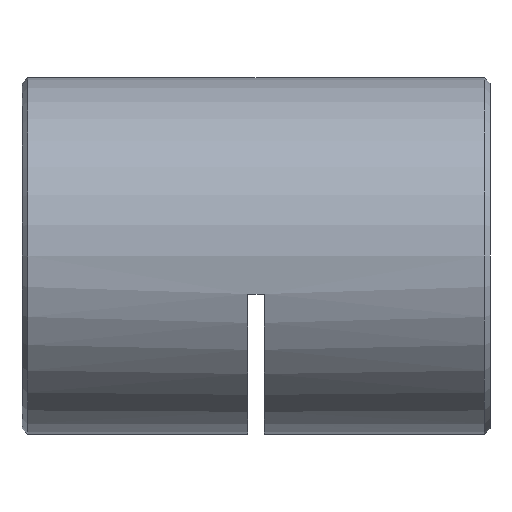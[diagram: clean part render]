
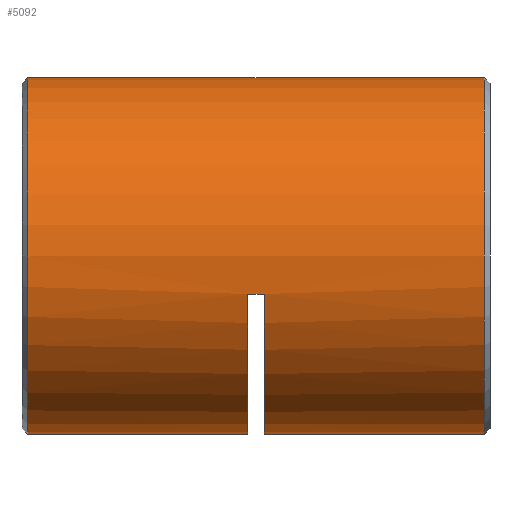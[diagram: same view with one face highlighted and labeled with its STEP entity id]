
A CAD part, left-side view. The second image highlights one B-rep face of the part: STEP entity #5092.
In plain terms, the highlighted cylindrical face has radius 16 mm (diameter 32 mm), a partial arc.
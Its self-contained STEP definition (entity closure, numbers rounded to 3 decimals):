
#181 = AXIS2_PLACEMENT_3D ( 'NONE', #1147, #6137, #2101 ) ;
#381 = DIRECTION ( 'NONE',  ( 0., -1., 0. ) ) ;
#483 = AXIS2_PLACEMENT_3D ( 'NONE', #925, #4430, #4454 ) ;
#545 = CARTESIAN_POINT ( 'NONE',  ( 0., 20.5, 0. ) ) ;
#649 = CARTESIAN_POINT ( 'NONE',  ( 0., 22., -16. ) ) ;
#656 = DIRECTION ( 'NONE',  ( 0., -1., 0. ) ) ;
#667 = CARTESIAN_POINT ( 'NONE',  ( -15.632, 22., -3.413 ) ) ;
#692 = CARTESIAN_POINT ( 'NONE',  ( 0., 0.75, 16. ) ) ;
#879 = ORIENTED_EDGE ( 'NONE', *, *, #4795, .F. ) ;
#925 = CARTESIAN_POINT ( 'NONE',  ( 0., 42.5, 0. ) ) ;
#1012 = AXIS2_PLACEMENT_3D ( 'NONE', #545, #4491, #3718 ) ;
#1105 = VERTEX_POINT ( 'NONE', #667 ) ;
#1147 = CARTESIAN_POINT ( 'NONE',  ( 0., 22., 0. ) ) ;
#1398 = ORIENTED_EDGE ( 'NONE', *, *, #5040, .T. ) ;
#1433 = DIRECTION ( 'NONE',  ( 0., -1., 0. ) ) ;
#1518 = ORIENTED_EDGE ( 'NONE', *, *, #3373, .T. ) ;
#1566 = DIRECTION ( 'NONE',  ( 0., -1., 0. ) ) ;
#1633 = CARTESIAN_POINT ( 'NONE',  ( 0., 0.75, 0. ) ) ;
#1661 = ORIENTED_EDGE ( 'NONE', *, *, #3323, .T. ) ;
#1780 = LINE ( 'NONE', #2795, #6294 ) ;
#1814 = CARTESIAN_POINT ( 'NONE',  ( 0., 0.75, -16. ) ) ;
#1996 = AXIS2_PLACEMENT_3D ( 'NONE', #5396, #1566, #3060 ) ;
#2055 = CARTESIAN_POINT ( 'NONE',  ( 0., 41.75, 16. ) ) ;
#2084 = VERTEX_POINT ( 'NONE', #3833 ) ;
#2101 = DIRECTION ( 'NONE',  ( 0., 0., -1. ) ) ;
#2276 = CIRCLE ( 'NONE', #1996, 16. ) ;
#2405 = VERTEX_POINT ( 'NONE', #692 ) ;
#2487 = VECTOR ( 'NONE', #3473, 1000. ) ;
#2583 = EDGE_CURVE ( 'NONE', #3280, #2405, #1780, .T. ) ;
#2642 = VECTOR ( 'NONE', #1433, 1000. ) ;
#2644 = DIRECTION ( 'NONE',  ( 0., 1., 0. ) ) ;
#2795 = CARTESIAN_POINT ( 'NONE',  ( 0., 42.5, 16. ) ) ;
#2931 = ORIENTED_EDGE ( 'NONE', *, *, #3551, .T. ) ;
#3050 = EDGE_LOOP ( 'NONE', ( #5141, #2931, #1661, #879, #4805, #4529, #1398, #1518 ) ) ;
#3060 = DIRECTION ( 'NONE',  ( 0., 0., -1. ) ) ;
#3097 = VERTEX_POINT ( 'NONE', #649 ) ;
#3152 = VERTEX_POINT ( 'NONE', #3969 ) ;
#3280 = VERTEX_POINT ( 'NONE', #2055 ) ;
#3323 = EDGE_CURVE ( 'NONE', #3152, #3097, #5555, .T. ) ;
#3373 = EDGE_CURVE ( 'NONE', #5000, #2405, #4862, .T. ) ;
#3473 = DIRECTION ( 'NONE',  ( 0., -1., 0. ) ) ;
#3517 = EDGE_CURVE ( 'NONE', #1105, #2084, #5996, .T. ) ;
#3551 = EDGE_CURVE ( 'NONE', #3280, #3152, #2276, .T. ) ;
#3718 = DIRECTION ( 'NONE',  ( 0., 0., -1. ) ) ;
#3752 = CIRCLE ( 'NONE', #181, 16. ) ;
#3833 = CARTESIAN_POINT ( 'NONE',  ( -15.632, 20.5, -3.413 ) ) ;
#3969 = CARTESIAN_POINT ( 'NONE',  ( 0., 41.75, -16. ) ) ;
#3978 = LINE ( 'NONE', #4918, #2642 ) ;
#4244 = VECTOR ( 'NONE', #656, 1000. ) ;
#4430 = DIRECTION ( 'NONE',  ( 0., -1., 0. ) ) ;
#4454 = DIRECTION ( 'NONE',  ( 0., 0., -1. ) ) ;
#4487 = CARTESIAN_POINT ( 'NONE',  ( -15.632, 21.25, -3.413 ) ) ;
#4491 = DIRECTION ( 'NONE',  ( 0., -1., 0. ) ) ;
#4529 = ORIENTED_EDGE ( 'NONE', *, *, #6273, .T. ) ;
#4696 = VERTEX_POINT ( 'NONE', #6073 ) ;
#4795 = EDGE_CURVE ( 'NONE', #1105, #3097, #3752, .T. ) ;
#4805 = ORIENTED_EDGE ( 'NONE', *, *, #3517, .T. ) ;
#4862 = CIRCLE ( 'NONE', #5724, 16. ) ;
#4918 = CARTESIAN_POINT ( 'NONE',  ( 0., 42.5, -16. ) ) ;
#5000 = VERTEX_POINT ( 'NONE', #1814 ) ;
#5040 = EDGE_CURVE ( 'NONE', #4696, #5000, #3978, .T. ) ;
#5092 = ADVANCED_FACE ( 'NONE', ( #5690 ), #5917, .T. ) ;
#5123 = CARTESIAN_POINT ( 'NONE',  ( 0., 42.5, -16. ) ) ;
#5141 = ORIENTED_EDGE ( 'NONE', *, *, #2583, .F. ) ;
#5396 = CARTESIAN_POINT ( 'NONE',  ( 0., 41.75, 0. ) ) ;
#5492 = CIRCLE ( 'NONE', #1012, 16. ) ;
#5555 = LINE ( 'NONE', #5123, #4244 ) ;
#5690 = FACE_OUTER_BOUND ( 'NONE', #3050, .T. ) ;
#5724 = AXIS2_PLACEMENT_3D ( 'NONE', #1633, #2644, #6112 ) ;
#5917 = CYLINDRICAL_SURFACE ( 'NONE', #483, 16. ) ;
#5996 = LINE ( 'NONE', #4487, #2487 ) ;
#6073 = CARTESIAN_POINT ( 'NONE',  ( 0., 20.5, -16. ) ) ;
#6112 = DIRECTION ( 'NONE',  ( 0., 0., 1. ) ) ;
#6137 = DIRECTION ( 'NONE',  ( 0., -1., 0. ) ) ;
#6273 = EDGE_CURVE ( 'NONE', #2084, #4696, #5492, .T. ) ;
#6294 = VECTOR ( 'NONE', #381, 1000. ) ;
